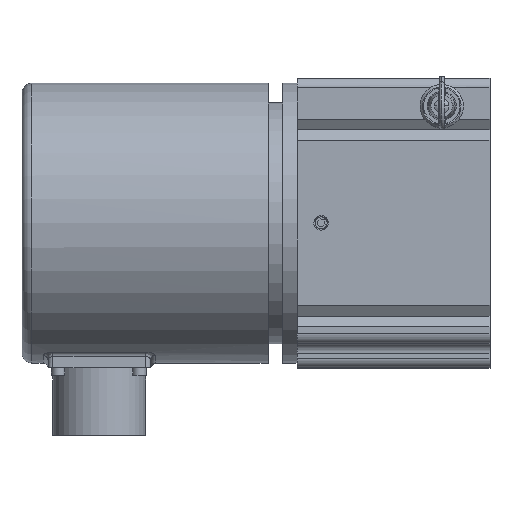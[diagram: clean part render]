
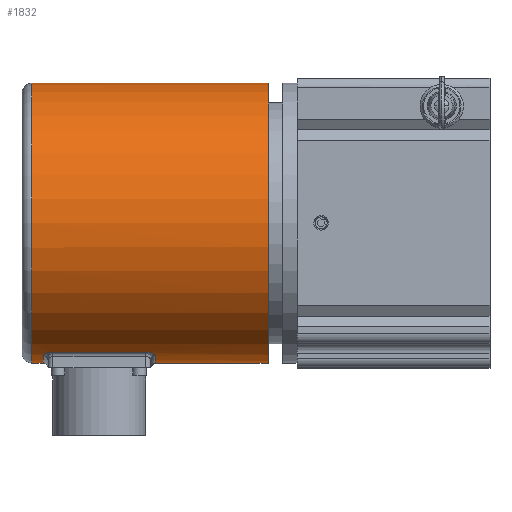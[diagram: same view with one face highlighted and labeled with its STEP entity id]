
A CAD part, top view. The second image highlights one B-rep face of the part: STEP entity #1832.
In plain terms, the highlighted cylindrical face has radius 29 mm (diameter 58 mm), a partial arc.
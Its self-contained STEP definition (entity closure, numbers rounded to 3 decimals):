
#155=CARTESIAN_POINT('',(-20.,0.,0.));
#156=DIRECTION('',(-1.,0.,0.));
#157=DIRECTION('',(0.,-1.,0.));
#158=AXIS2_PLACEMENT_3D('',#155,#156,#157);
#175=DIRECTION('',(-1.,0.,0.));
#176=VECTOR('',#175,19.213);
#177=CARTESIAN_POINT('',(-45.393,-26.742,11.22));
#178=LINE('',#177,#176);
#179=CARTESIAN_POINT('',(-64.607,-26.742,11.22));
#180=CARTESIAN_POINT('',(-64.644,-26.742,11.22));
#181=CARTESIAN_POINT('',(-64.718,-26.743,11.218));
#182=CARTESIAN_POINT('',(-64.83,-26.746,11.209));
#183=CARTESIAN_POINT('',(-64.942,-26.753,11.193));
#184=CARTESIAN_POINT('',(-65.054,-26.762,11.172));
#185=CARTESIAN_POINT('',(-65.164,-26.773,11.144));
#186=CARTESIAN_POINT('',(-65.272,-26.787,11.111));
#187=CARTESIAN_POINT('',(-65.379,-26.804,11.071));
#188=CARTESIAN_POINT('',(-65.483,-26.822,11.025));
#189=CARTESIAN_POINT('',(-65.585,-26.844,10.974));
#190=CARTESIAN_POINT('',(-65.685,-26.867,10.916));
#191=CARTESIAN_POINT('',(-65.781,-26.893,10.853));
#192=CARTESIAN_POINT('',(-65.873,-26.92,10.784));
#193=CARTESIAN_POINT('',(-65.961,-26.95,10.71));
#194=CARTESIAN_POINT('',(-66.045,-26.981,10.631));
#195=CARTESIAN_POINT('',(-66.125,-27.014,10.547));
#196=CARTESIAN_POINT('',(-66.199,-27.049,10.458));
#197=CARTESIAN_POINT('',(-66.268,-27.084,10.365));
#198=CARTESIAN_POINT('',(-66.331,-27.121,10.268));
#199=CARTESIAN_POINT('',(-66.388,-27.159,10.168));
#200=CARTESIAN_POINT('',(-66.439,-27.198,10.064));
#201=CARTESIAN_POINT('',(-66.483,-27.237,9.958));
#202=CARTESIAN_POINT('',(-66.521,-27.277,9.848));
#203=CARTESIAN_POINT('',(-66.553,-27.316,9.737));
#204=CARTESIAN_POINT('',(-66.577,-27.356,9.625));
#205=CARTESIAN_POINT('',(-66.594,-27.396,9.512));
#206=CARTESIAN_POINT('',(-66.604,-27.435,9.399));
#207=CARTESIAN_POINT('',(-66.607,-27.46,9.324));
#208=CARTESIAN_POINT('',(-66.607,-27.473,9.286));
#210=DIRECTION('',(1.,0.,0.));
#211=VECTOR('',#210,49.);
#212=CARTESIAN_POINT('',(-69.,29.,0.));
#213=LINE('',#212,#211);
#214=DIRECTION('',(1.,0.,0.));
#215=VECTOR('',#214,2.393);
#216=CARTESIAN_POINT('',(-69.,-29.,0.));
#217=LINE('',#216,#215);
#253=DIRECTION('',(1.,0.,0.));
#254=VECTOR('',#253,23.393);
#255=CARTESIAN_POINT('',(-43.393,-29.,0.));
#256=LINE('',#255,#254);
#292=CARTESIAN_POINT('',(-69.,0.,0.));
#293=DIRECTION('',(1.,0.,0.));
#294=DIRECTION('',(0.,1.,0.));
#295=AXIS2_PLACEMENT_3D('',#292,#293,#294);
#297=CARTESIAN_POINT('',(-69.,0.,0.));
#298=DIRECTION('',(1.,0.,0.));
#299=DIRECTION('',(0.,1.,0.005));
#300=AXIS2_PLACEMENT_3D('',#297,#298,#299);
#317=CARTESIAN_POINT('',(-66.607,0.,0.));
#318=DIRECTION('',(-1.,0.,0.));
#319=DIRECTION('',(0.,-1.,0.));
#320=AXIS2_PLACEMENT_3D('',#317,#318,#319);
#406=CARTESIAN_POINT('',(-45.393,-26.742,11.22));
#407=CARTESIAN_POINT('',(-45.357,-26.742,11.22));
#408=CARTESIAN_POINT('',(-45.283,-26.743,11.218));
#409=CARTESIAN_POINT('',(-45.171,-26.746,11.209));
#410=CARTESIAN_POINT('',(-45.058,-26.753,11.193));
#411=CARTESIAN_POINT('',(-44.947,-26.762,11.172));
#412=CARTESIAN_POINT('',(-44.837,-26.773,11.144));
#413=CARTESIAN_POINT('',(-44.728,-26.787,11.111));
#414=CARTESIAN_POINT('',(-44.622,-26.804,11.071));
#415=CARTESIAN_POINT('',(-44.517,-26.822,11.026));
#416=CARTESIAN_POINT('',(-44.415,-26.844,10.974));
#417=CARTESIAN_POINT('',(-44.316,-26.867,10.916));
#418=CARTESIAN_POINT('',(-44.22,-26.893,10.853));
#419=CARTESIAN_POINT('',(-44.128,-26.92,10.785));
#420=CARTESIAN_POINT('',(-44.039,-26.95,10.711));
#421=CARTESIAN_POINT('',(-43.955,-26.981,10.631));
#422=CARTESIAN_POINT('',(-43.876,-27.014,10.547));
#423=CARTESIAN_POINT('',(-43.802,-27.048,10.459));
#424=CARTESIAN_POINT('',(-43.733,-27.084,10.366));
#425=CARTESIAN_POINT('',(-43.67,-27.121,10.269));
#426=CARTESIAN_POINT('',(-43.612,-27.159,10.168));
#427=CARTESIAN_POINT('',(-43.561,-27.198,10.064));
#428=CARTESIAN_POINT('',(-43.517,-27.237,9.958));
#429=CARTESIAN_POINT('',(-43.479,-27.276,9.849));
#430=CARTESIAN_POINT('',(-43.448,-27.316,9.738));
#431=CARTESIAN_POINT('',(-43.423,-27.356,9.626));
#432=CARTESIAN_POINT('',(-43.406,-27.396,9.512));
#433=CARTESIAN_POINT('',(-43.396,-27.435,9.399));
#434=CARTESIAN_POINT('',(-43.393,-27.46,9.324));
#435=CARTESIAN_POINT('',(-43.393,-27.473,9.286));
#442=CARTESIAN_POINT('',(-43.393,0.,0.));
#443=DIRECTION('',(1.,0.,0.));
#444=DIRECTION('',(0.,-0.947,0.32));
#445=AXIS2_PLACEMENT_3D('',#442,#443,#444);
#447=CARTESIAN_POINT('',(-43.393,0.,0.));
#448=DIRECTION('',(1.,0.,0.));
#449=DIRECTION('',(0.,-1.,0.008));
#450=AXIS2_PLACEMENT_3D('',#447,#448,#449);
#1319=CARTESIAN_POINT('',(-20.,-29.,0.));
#1320=CARTESIAN_POINT('',(-20.,29.,0.));
#1321=VERTEX_POINT('',#1319);
#1322=VERTEX_POINT('',#1320);
#1323=CARTESIAN_POINT('',(-43.393,-29.,0.));
#1324=VERTEX_POINT('',#1323);
#1325=CARTESIAN_POINT('',(-43.393,-27.473,
9.286));
#1326=CARTESIAN_POINT('',(-43.393,-28.999,
0.218));
#1327=VERTEX_POINT('',#1325);
#1328=VERTEX_POINT('',#1326);
#1329=VERTEX_POINT('',#406);
#1330=CARTESIAN_POINT('',(-64.607,-26.742,
11.22));
#1331=VERTEX_POINT('',#1330);
#1332=VERTEX_POINT('',#208);
#1333=CARTESIAN_POINT('',(-66.607,-29.,0.));
#1334=VERTEX_POINT('',#1333);
#1335=CARTESIAN_POINT('',(-69.,-29.,0.));
#1336=VERTEX_POINT('',#1335);
#1337=CARTESIAN_POINT('',(-69.,29.,0.154));
#1338=VERTEX_POINT('',#1337);
#1339=CARTESIAN_POINT('',(-69.,29.,0.));
#1340=VERTEX_POINT('',#1339);
#1802=CARTESIAN_POINT('',(-14.,0.,0.));
#1803=DIRECTION('',(-1.,0.,0.));
#1804=DIRECTION('',(0.,-1.,0.));
#1805=AXIS2_PLACEMENT_3D('',#1802,#1803,#1804);
#1806=CYLINDRICAL_SURFACE('',#1805,29.);
#1807=ORIENTED_EDGE('',*,*,#1791,.F.);
#1809=ORIENTED_EDGE('',*,*,#1808,.F.);
#1811=ORIENTED_EDGE('',*,*,#1810,.F.);
#1813=ORIENTED_EDGE('',*,*,#1812,.F.);
#1815=ORIENTED_EDGE('',*,*,#1814,.F.);
#1817=ORIENTED_EDGE('',*,*,#1816,.T.);
#1819=ORIENTED_EDGE('',*,*,#1818,.T.);
#1821=ORIENTED_EDGE('',*,*,#1820,.F.);
#1823=ORIENTED_EDGE('',*,*,#1822,.F.);
#1825=ORIENTED_EDGE('',*,*,#1824,.F.);
#1827=ORIENTED_EDGE('',*,*,#1826,.F.);
#1829=ORIENTED_EDGE('',*,*,#1828,.T.);
#1830=EDGE_LOOP('',(#1807,#1809,#1811,#1813,#1815,#1817,#1819,#1821,#1823,#1825,
#1827,#1829));
#1831=FACE_OUTER_BOUND('',#1830,.F.);
#159=CIRCLE('',#158,29.);
#209=B_SPLINE_CURVE_WITH_KNOTS('',3,(#179,#180,#181,#182,#183,#184,#185,#186,
#187,#188,#189,#190,#191,#192,#193,#194,#195,#196,#197,#198,#199,#200,#201,#202,
#203,#204,#205,#206,#207,#208),.UNSPECIFIED.,.F.,.F.,(4,1,1,1,1,1,1,1,1,1,1,1,1,
1,1,1,1,1,1,1,1,1,1,1,1,1,1,4),(0.,0.037,0.074,
0.111,0.148,0.185,0.222,
0.259,0.296,0.333,0.37,
0.407,0.444,0.481,0.519,
0.556,0.593,0.63,0.667,
0.704,0.741,0.778,0.815,
0.852,0.889,0.926,0.963,1.),
.UNSPECIFIED.);
#296=CIRCLE('',#295,29.);
#301=CIRCLE('',#300,29.);
#321=CIRCLE('',#320,29.);
#436=B_SPLINE_CURVE_WITH_KNOTS('',3,(#406,#407,#408,#409,#410,#411,#412,#413,
#414,#415,#416,#417,#418,#419,#420,#421,#422,#423,#424,#425,#426,#427,#428,#429,
#430,#431,#432,#433,#434,#435),.UNSPECIFIED.,.F.,.F.,(4,1,1,1,1,1,1,1,1,1,1,1,1,
1,1,1,1,1,1,1,1,1,1,1,1,1,1,4),(0.,0.037,0.074,
0.111,0.148,0.185,0.222,
0.259,0.296,0.333,0.37,
0.407,0.444,0.481,0.519,
0.556,0.593,0.63,0.667,
0.704,0.741,0.778,0.815,
0.852,0.889,0.926,0.963,1.),
.UNSPECIFIED.);
#446=CIRCLE('',#445,29.);
#451=CIRCLE('',#450,29.);
#1791=EDGE_CURVE('',#1321,#1322,#159,.T.);
#1808=EDGE_CURVE('',#1324,#1321,#256,.T.);
#1810=EDGE_CURVE('',#1328,#1324,#451,.T.);
#1812=EDGE_CURVE('',#1327,#1328,#446,.T.);
#1814=EDGE_CURVE('',#1329,#1327,#436,.T.);
#1816=EDGE_CURVE('',#1329,#1331,#178,.T.);
#1818=EDGE_CURVE('',#1331,#1332,#209,.T.);
#1820=EDGE_CURVE('',#1334,#1332,#321,.T.);
#1822=EDGE_CURVE('',#1336,#1334,#217,.T.);
#1824=EDGE_CURVE('',#1338,#1336,#301,.T.);
#1826=EDGE_CURVE('',#1340,#1338,#296,.T.);
#1828=EDGE_CURVE('',#1340,#1322,#213,.T.);
#1832=ADVANCED_FACE('',(#1831),#1806,.T.);
